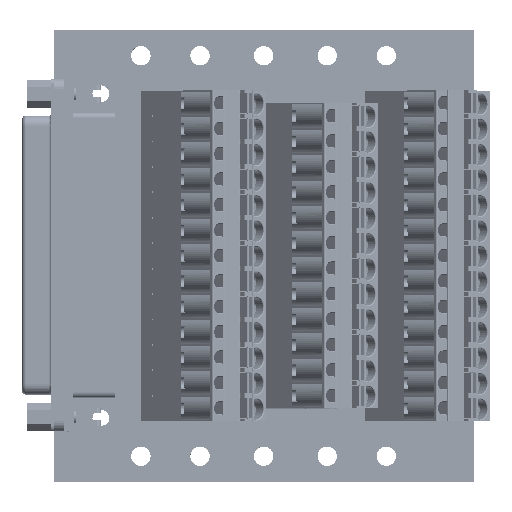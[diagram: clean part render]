
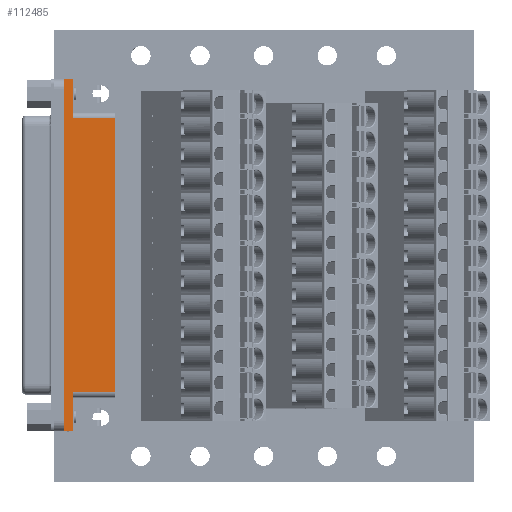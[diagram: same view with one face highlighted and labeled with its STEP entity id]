
A CAD part, top view. The second image highlights one B-rep face of the part: STEP entity #112485.
In plain terms, the highlighted planar face has unit normal (0, 0, 1) as drawn and (0, 1, 0) by its records, which use the part's own axes.
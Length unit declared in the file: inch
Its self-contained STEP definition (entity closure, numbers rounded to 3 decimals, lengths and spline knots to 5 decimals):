
#1244 = LINE ( 'NONE', #233484, #81811 ) ;
#1830 = EDGE_CURVE ( 'NONE', #8849, #15162, #93421, .T. ) ;
#4203 = LINE ( 'NONE', #182277, #235001 ) ;
#8849 = VERTEX_POINT ( 'NONE', #89049 ) ;
#9243 = LINE ( 'NONE', #118309, #167106 ) ;
#12261 = CARTESIAN_POINT ( 'NONE',  ( 1.36457, 0.16142, 0.07874 ) ) ;
#13405 = LINE ( 'NONE', #12261, #276740 ) ;
#14336 = CARTESIAN_POINT ( 'NONE',  ( 1.36457, 0.16142, 0.15157 ) ) ;
#15162 = VERTEX_POINT ( 'NONE', #14336 ) ;
#23921 = CARTESIAN_POINT ( 'NONE',  ( -1.36457, 0.16142, 0.07874 ) ) ;
#25362 = CARTESIAN_POINT ( 'NONE',  ( -1.06299, 0.16142, 0.07874 ) ) ;
#27273 = DIRECTION ( 'NONE',  ( 1., 0., 0. ) ) ;
#29729 = EDGE_LOOP ( 'NONE', ( #267387, #144936, #119026, #127500, #84515, #172784, #52340, #94955 ) ) ;
#36348 = CARTESIAN_POINT ( 'NONE',  ( -1.06299, 0.16142, 0.47638 ) ) ;
#38359 = EDGE_CURVE ( 'NONE', #99567, #8849, #71846, .T. ) ;
#45618 = VECTOR ( 'NONE', #327993, 39.37008 ) ;
#46893 = VERTEX_POINT ( 'NONE', #237122 ) ;
#52340 = ORIENTED_EDGE ( 'NONE', *, *, #278262, .T. ) ;
#53361 = CARTESIAN_POINT ( 'NONE',  ( 1.06299, 0.16142, 0.47638 ) ) ;
#55943 = VERTEX_POINT ( 'NONE', #36348 ) ;
#71846 = LINE ( 'NONE', #332719, #237925 ) ;
#78377 = DIRECTION ( 'NONE',  ( 0., 0., 1. ) ) ;
#81811 = VECTOR ( 'NONE', #129172, 39.37008 ) ;
#84515 = ORIENTED_EDGE ( 'NONE', *, *, #98961, .T. ) ;
#85477 = VERTEX_POINT ( 'NONE', #102258 ) ;
#89049 = CARTESIAN_POINT ( 'NONE',  ( 1.06299, 0.16142, 0.15157 ) ) ;
#93421 = LINE ( 'NONE', #230068, #190591 ) ;
#94906 = CARTESIAN_POINT ( 'NONE',  ( 1.06299, 0.16142, 0.07874 ) ) ;
#94955 = ORIENTED_EDGE ( 'NONE', *, *, #103888, .T. ) ;
#98961 = EDGE_CURVE ( 'NONE', #15162, #85477, #13405, .T. ) ;
#99567 = VERTEX_POINT ( 'NONE', #53361 ) ;
#102258 = CARTESIAN_POINT ( 'NONE',  ( 1.36457, 0.16142, 0.07874 ) ) ;
#103888 = EDGE_CURVE ( 'NONE', #241891, #46893, #1244, .T. ) ;
#112485 = ADVANCED_FACE ( 'NONE', ( #188663 ), #322368, .T. ) ;
#114125 = DIRECTION ( 'NONE',  ( 0., 0., 1. ) ) ;
#118309 = CARTESIAN_POINT ( 'NONE',  ( -1.36457, 0.16142, 0.07874 ) ) ;
#119026 = ORIENTED_EDGE ( 'NONE', *, *, #38359, .T. ) ;
#126871 = DIRECTION ( 'NONE',  ( 1., 0., 0. ) ) ;
#127500 = ORIENTED_EDGE ( 'NONE', *, *, #1830, .T. ) ;
#129172 = DIRECTION ( 'NONE',  ( 1., 0., 0. ) ) ;
#144936 = ORIENTED_EDGE ( 'NONE', *, *, #244801, .T. ) ;
#162192 = CARTESIAN_POINT ( 'NONE',  ( -1.36457, 0.16142, 0.15157 ) ) ;
#165024 = CARTESIAN_POINT ( 'NONE',  ( 1.06299, 0.16142, 0.07874 ) ) ;
#167106 = VECTOR ( 'NONE', #198757, 39.37008 ) ;
#172742 = VERTEX_POINT ( 'NONE', #23921 ) ;
#172784 = ORIENTED_EDGE ( 'NONE', *, *, #327259, .T. ) ;
#182277 = CARTESIAN_POINT ( 'NONE',  ( 1.06299, 0.16142, 0.47638 ) ) ;
#188663 = FACE_OUTER_BOUND ( 'NONE', #29729, .T. ) ;
#190591 = VECTOR ( 'NONE', #126871, 39.37008 ) ;
#198757 = DIRECTION ( 'NONE',  ( 0., 0., 1. ) ) ;
#205207 = AXIS2_PLACEMENT_3D ( 'NONE', #165024, #317945, #114125 ) ;
#230068 = CARTESIAN_POINT ( 'NONE',  ( 1.06299, 0.16142, 0.15157 ) ) ;
#232163 = LINE ( 'NONE', #25362, #272764 ) ;
#233484 = CARTESIAN_POINT ( 'NONE',  ( 1.06299, 0.16142, 0.15157 ) ) ;
#235001 = VECTOR ( 'NONE', #27273, 39.37008 ) ;
#237122 = CARTESIAN_POINT ( 'NONE',  ( -1.06299, 0.16142, 0.15157 ) ) ;
#237925 = VECTOR ( 'NONE', #252682, 39.37008 ) ;
#241891 = VERTEX_POINT ( 'NONE', #162192 ) ;
#244260 = DIRECTION ( 'NONE',  ( 0., 0., -1. ) ) ;
#244801 = EDGE_CURVE ( 'NONE', #55943, #99567, #4203, .T. ) ;
#252682 = DIRECTION ( 'NONE',  ( 0., 0., -1. ) ) ;
#267387 = ORIENTED_EDGE ( 'NONE', *, *, #296405, .T. ) ;
#272764 = VECTOR ( 'NONE', #78377, 39.37008 ) ;
#276740 = VECTOR ( 'NONE', #244260, 39.37008 ) ;
#278262 = EDGE_CURVE ( 'NONE', #172742, #241891, #9243, .T. ) ;
#296405 = EDGE_CURVE ( 'NONE', #46893, #55943, #232163, .T. ) ;
#308821 = LINE ( 'NONE', #94906, #45618 ) ;
#317945 = DIRECTION ( 'NONE',  ( 0., 1., 0. ) ) ;
#322368 = PLANE ( 'NONE',  #205207 ) ;
#327259 = EDGE_CURVE ( 'NONE', #85477, #172742, #308821, .T. ) ;
#327993 = DIRECTION ( 'NONE',  ( -1., 0., 0. ) ) ;
#332719 = CARTESIAN_POINT ( 'NONE',  ( 1.06299, 0.16142, 0.07874 ) ) ;
